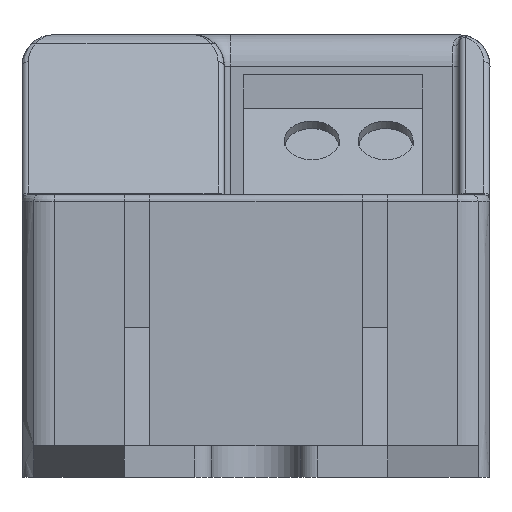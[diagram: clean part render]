
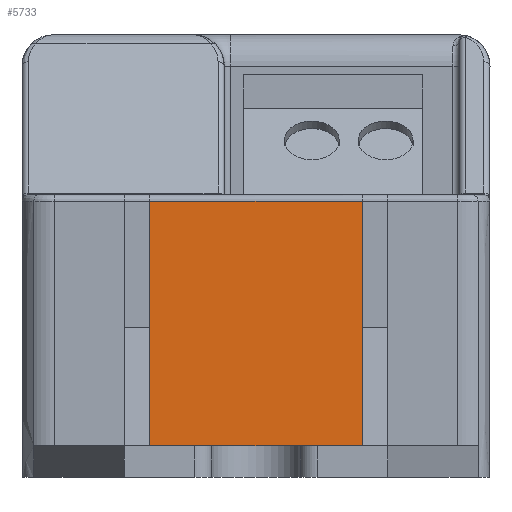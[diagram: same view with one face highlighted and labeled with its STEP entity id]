
A CAD part, left-side view. The second image highlights one B-rep face of the part: STEP entity #5733.
In plain terms, the highlighted planar face has unit normal (-1, 0, 0).
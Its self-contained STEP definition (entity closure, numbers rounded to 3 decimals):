
#335=DIRECTION('',(0.,-1.,0.));
#336=VECTOR('',#335,10.1);
#337=CARTESIAN_POINT('',(-62.474,5.05,1.5));
#338=LINE('',#337,#336);
#1582=DIRECTION('',(0.,0.,1.));
#1583=VECTOR('',#1582,11.6);
#1584=CARTESIAN_POINT('',(-62.474,-5.05,1.5));
#1585=LINE('',#1584,#1583);
#1600=DIRECTION('',(0.,-1.,0.));
#1601=VECTOR('',#1600,10.1);
#1602=CARTESIAN_POINT('',(-62.474,5.05,13.1));
#1603=LINE('',#1602,#1601);
#1607=DIRECTION('',(0.,0.,1.));
#1608=VECTOR('',#1607,11.6);
#1609=CARTESIAN_POINT('',(-62.474,5.05,1.5));
#1610=LINE('',#1609,#1608);
#4229=CARTESIAN_POINT('',(-62.474,5.05,1.5));
#4230=VERTEX_POINT('',#4229);
#4231=CARTESIAN_POINT('',(-62.474,-5.05,1.5));
#4232=VERTEX_POINT('',#4231);
#4515=CARTESIAN_POINT('',(-62.474,5.05,13.1));
#4516=CARTESIAN_POINT('',(-62.474,-5.05,
13.1));
#4517=VERTEX_POINT('',#4515);
#4518=VERTEX_POINT('',#4516);
#5722=CARTESIAN_POINT('',(-62.474,5.05,1.5));
#5723=DIRECTION('',(-1.,0.,0.));
#5724=DIRECTION('',(0.,-1.,0.));
#5725=AXIS2_PLACEMENT_3D('',#5722,#5723,#5724);
#5726=PLANE('',#5725);
#5727=ORIENTED_EDGE('',*,*,#5700,.T.);
#5728=ORIENTED_EDGE('',*,*,#5710,.F.);
#5729=ORIENTED_EDGE('',*,*,#4719,.F.);
#5730=ORIENTED_EDGE('',*,*,#5679,.T.);
#5731=EDGE_LOOP('',(#5727,#5728,#5729,#5730));
#5732=FACE_OUTER_BOUND('',#5731,.F.);
#4719=EDGE_CURVE('',#4230,#4232,#338,.T.);
#5679=EDGE_CURVE('',#4230,#4517,#1610,.T.);
#5700=EDGE_CURVE('',#4517,#4518,#1603,.T.);
#5710=EDGE_CURVE('',#4232,#4518,#1585,.T.);
#5733=ADVANCED_FACE('',(#5732),#5726,.T.);
